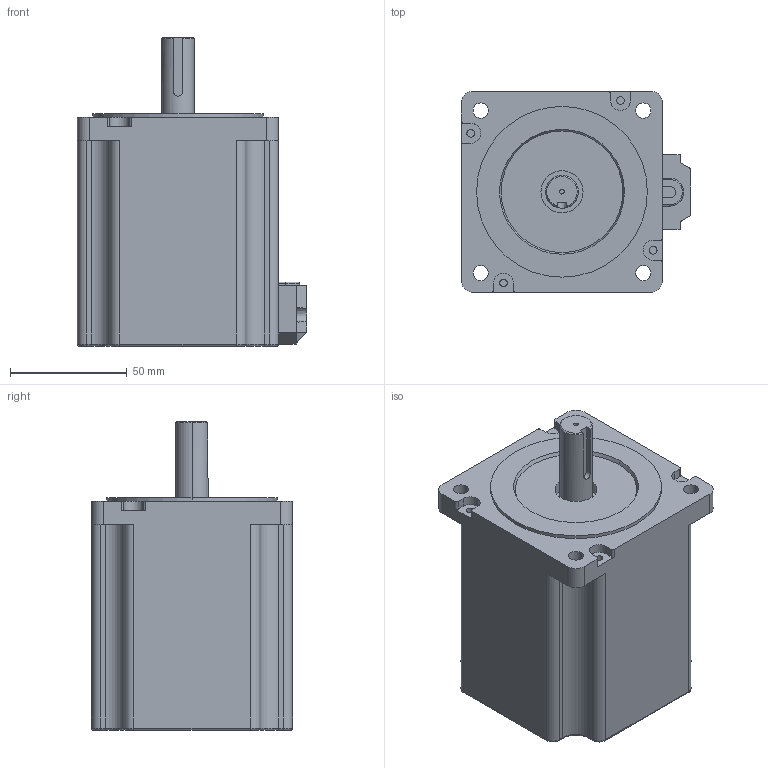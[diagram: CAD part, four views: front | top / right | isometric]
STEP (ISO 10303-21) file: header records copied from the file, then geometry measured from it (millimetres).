
FILE_DESCRIPTION((''),'2;1');
FILE_NAME('ABCD0E94C2B2YBPX_1','2021-11-18T17:28:24',('qingl'),(''),'CREO PARAMETRIC BY PTC INC, 2019224','CREO PARAMETRIC BY PTC INC, 2019224','');
FILE_SCHEMA(('CONFIG_CONTROL_DESIGN'));
Length unit declared in the file: millimetre
Products named in the file (1): ABCD0E94C2B2YBPX_1
Bounding box: 98 x 86 x 132 mm (x, y, z)
Volume: 669099.7 mm3; surface area: 51506.4 mm2
Topology: 1 solids, 1 shells, 320 faces, 882 edges, 580 vertices
Faces by surface type: cylinder 219, plane 73, torus 13, bspline 8, cone 7
Entity records: 15200 total; most frequent: CARTESIAN_POINT 7422, ORIENTED_EDGE 1764, DIRECTION 1409, EDGE_CURVE 882, VERTEX_POINT 580, AXIS2_PLACEMENT_3D 522, VECTOR 365, LINE 365
